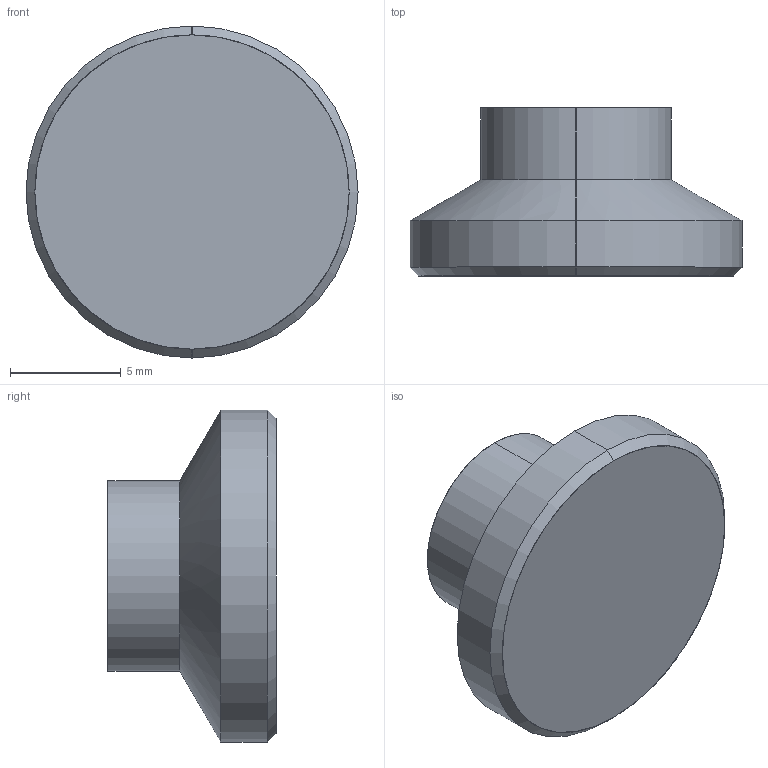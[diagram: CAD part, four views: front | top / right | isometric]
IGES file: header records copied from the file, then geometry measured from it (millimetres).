
Start section: SolidWorks IGES file using analytic representation for surfaces
Global section: file name: C:\Documents and Settings\IanO.IANOHOME\My Documents\Wix and Auto CAD Work\CAD Models\Parametric Models\Wix Models\34530\34530_IGES\34530.W0014.igs; native system: SolidWorks 2009; preprocessor: SolidWorks 2009; author: IanO; date: 110803.110602; units: millimetre
Bounding box: 15 x 7.6 x 15 mm (x, y, z)
Surface area: 658.7 mm2 (no closed solid volume)
Topology: 0 solids, 0 shells, 14 faces, 180 edges, 176 vertices
Faces by surface type: revolution 12, bspline 2
